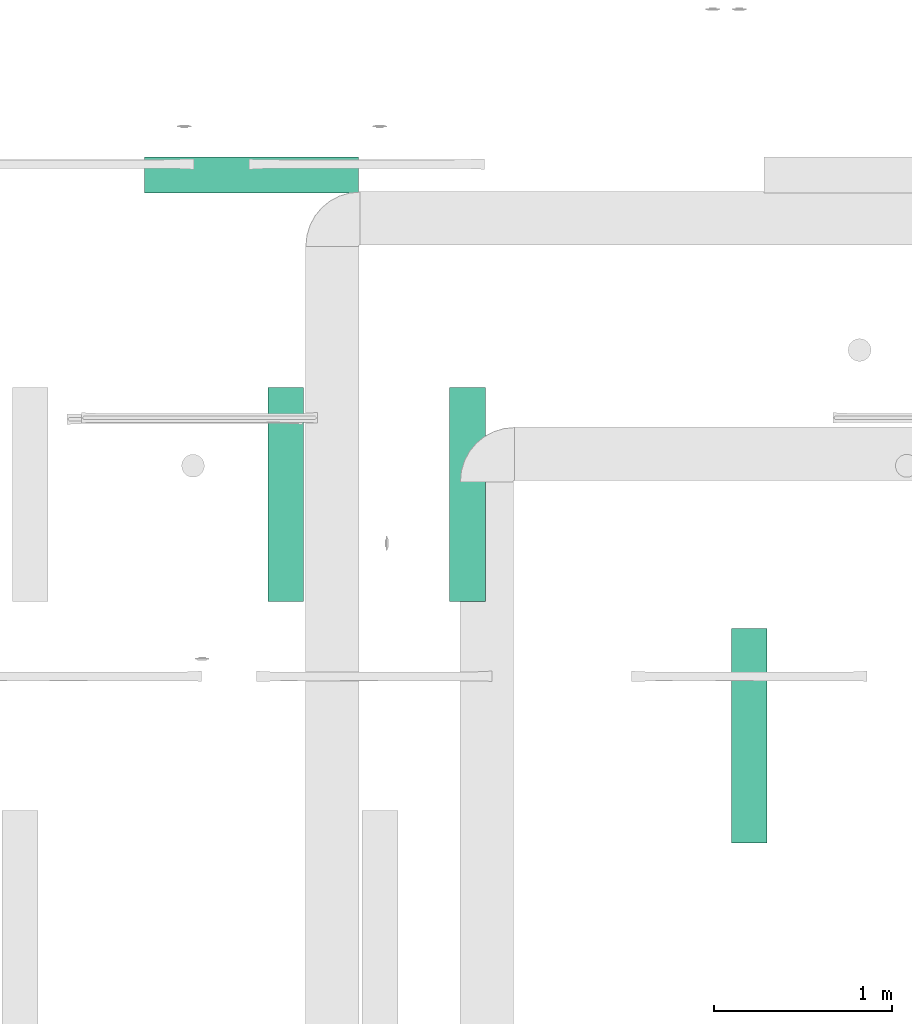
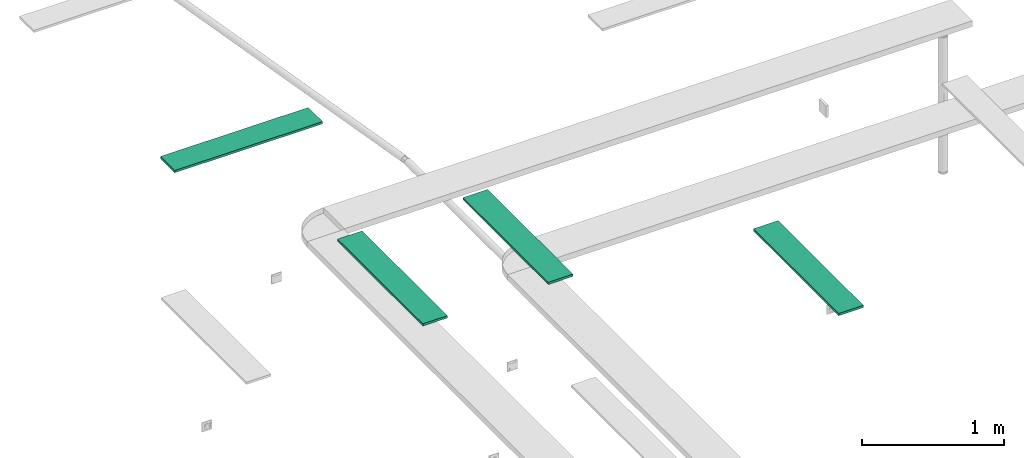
# One storey, part 5 of 153: 4 flow terminals.
"""IFC2X3 building model written with IfcOpenShell, lengths in metres."""

from ifc_helpers import new_model, entity, si_unit, converted_unit, derived_unit, direction, frame, origin, origin_2d_with_axis, place, context, subcontext, project, spatial, rectangle, extrude, source, transform, mapped, type_object, type_shapes, element, save


model = new_model("IFC2X3")

# Units and contexts
model_context = context("Model", 3, precision=1e-05, world=origin(), true_north=direction((6.12303176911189e-17, 1.0)))
body_context = subcontext(model_context, "Body", "Model", "MODEL_VIEW")
ifc_project = project(units=[si_unit("LENGTHUNIT", "METRE"), si_unit("AREAUNIT", "SQUARE_METRE"), si_unit("VOLUMEUNIT", "CUBIC_METRE"), converted_unit("PLANEANGLEUNIT", "DEGREE", entity("IfcRatioMeasure", 0.0174532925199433), si_unit("PLANEANGLEUNIT", "RADIAN"), dimensions=[0, 0, 0, 0, 0, 0, 0]), si_unit("MASSUNIT", "GRAM", prefix="KILO"), derived_unit("MASSDENSITYUNIT", [(si_unit("MASSUNIT", "GRAM", prefix="KILO"), 1), (si_unit("LENGTHUNIT", "METRE"), -3)]), si_unit("TIMEUNIT", "SECOND"), si_unit("FREQUENCYUNIT", "HERTZ"), si_unit("THERMODYNAMICTEMPERATUREUNIT", "DEGREE_CELSIUS"), derived_unit("THERMALTRANSMITTANCEUNIT", [(si_unit("MASSUNIT", "GRAM", prefix="KILO"), 1), (si_unit("THERMODYNAMICTEMPERATUREUNIT", "KELVIN"), -1), (si_unit("TIMEUNIT", "SECOND"), -3)]), derived_unit("VOLUMETRICFLOWRATEUNIT", [(si_unit("LENGTHUNIT", "METRE"), 3), (si_unit("TIMEUNIT", "SECOND"), -1)]), si_unit("ELECTRICCURRENTUNIT", "AMPERE"), si_unit("ELECTRICVOLTAGEUNIT", "VOLT"), si_unit("POWERUNIT", "WATT"), si_unit("FORCEUNIT", "NEWTON"), si_unit("ILLUMINANCEUNIT", "LUX"), si_unit("LUMINOUSFLUXUNIT", "LUMEN"), si_unit("LUMINOUSINTENSITYUNIT", "CANDELA"), derived_unit("USERDEFINED", [(si_unit("MASSUNIT", "GRAM", prefix="KILO"), -1), (si_unit("LENGTHUNIT", "METRE"), -2), (si_unit("TIMEUNIT", "SECOND"), 3), (si_unit("LUMINOUSFLUXUNIT", "LUMEN"), 1)]), derived_unit("LINEARVELOCITYUNIT", [(si_unit("LENGTHUNIT", "METRE"), 1), (si_unit("TIMEUNIT", "SECOND"), -1)]), si_unit("PRESSUREUNIT", "PASCAL"), derived_unit("USERDEFINED", [(si_unit("LENGTHUNIT", "METRE"), -2), (si_unit("MASSUNIT", "GRAM", prefix="KILO"), 1), (si_unit("TIMEUNIT", "SECOND"), -2)])], contexts=[model_context])

# Site, building, storey
site_placement = place(None, origin())
site = spatial("IfcSite", under=ifc_project, at=site_placement, Name="Default", CompositionType="ELEMENT")
building_placement = place(site_placement, origin())
building = spatial("IfcBuilding", under=site, at=building_placement, CompositionType="ELEMENT")
storey_placement = place(building_placement, frame((0.0, 0.0, -4.62)))
storey = spatial("IfcBuildingStorey", under=building, at=storey_placement, Name="S02", CompositionType="ELEMENT", Elevation=-4.62)

# Flow terminals
light_fixture_type = type_object("IfcLightFixtureType", Name="B_Réglete étanche", PredefinedType="NOTDEFINED")
shared_shape = source(origin(), body_context, "Body", "SweptSolid", [
    extrude(rectangle(XDim=0.199999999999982, YDim=1.2, at=origin_2d_with_axis()), frame((0.0, 0.0, 0.0), z_axis=(0.0, 0.0, 1.0), x_axis=(0.0, 1.0, 0.0)), (0.0, 0.0, 1.0), 0.02),
])
type_shapes(light_fixture_type, [shared_shape])
for number, where, z_axis, x_axis in (
    (1, (38.5700606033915, -190.989579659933, 4.175), (0.0, 0.0, -1.0), (0.0, -1.0, 0.0)),
    (2, (35.7817256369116, -187.847296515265, 4.345), (0.0, 0.0, -1.0), (-1.0, 0.0, 0.0)),
    (3, (36.99189883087, -189.637069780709, 4.175), (0.0, 0.0, -1.0), (0.0, -1.0, 0.0)),
    (4, (35.97389883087, -189.637069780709, 4.175), (0.0, 0.0, -1.0), (0.0, -1.0, 0.0)),
):
    element("IfcFlowTerminal", number, at=place(storey_placement, frame(where, z_axis=z_axis, x_axis=x_axis)), inside=storey, type_object=light_fixture_type, Name="II_PREF_Type B Réglette étanche:B_Réglete étanche", ObjectType="II_PREF_Type B Réglette étanche:B_Réglete étanche", context=body_context, shape_type="MappedRepresentation", body=[
        mapped(shared_shape, transform((0.0, 0.0, 0.0), scale=1.0)),
    ])

save(model, "model.ifc")
